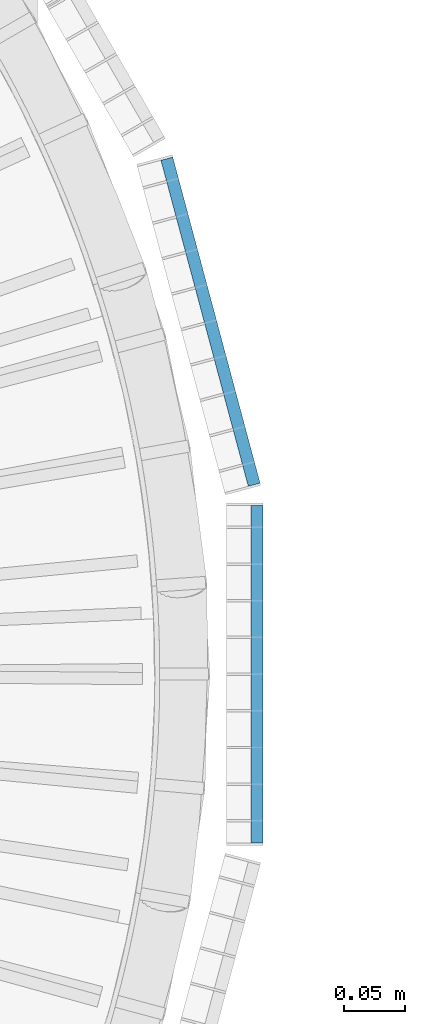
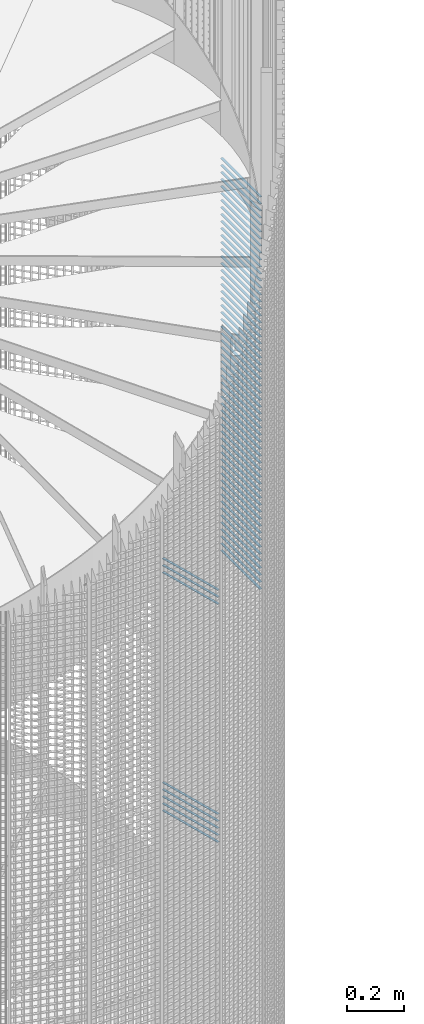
# One storey, part 290 of 1148: 65 beams, 2 elements without a shape of their own.
"""IFC2X3 building model written with IfcOpenShell, lengths in millimetres."""

from ifc_helpers import new_model, si_unit, frame, origin_with_axes, origin_2d_with_axis, place, context, subcontext, project, spatial, rectangle, extrude, material, type_object, element, aggregate, save


model = new_model("IFC2X3")

# Units and contexts
model_context = context("Model", 3, precision=1e-05, world=origin_with_axes())
body_context = subcontext(model_context, "Body", "Model", "MODEL_VIEW")
ifc_project = project(units=[si_unit("LENGTHUNIT", "METRE", prefix="MILLI"), si_unit("AREAUNIT", "SQUARE_METRE"), si_unit("VOLUMEUNIT", "CUBIC_METRE"), si_unit("MASSUNIT", "GRAM", prefix="KILO"), si_unit("TIMEUNIT", "SECOND"), si_unit("PLANEANGLEUNIT", "RADIAN"), si_unit("SOLIDANGLEUNIT", "STERADIAN"), si_unit("THERMODYNAMICTEMPERATUREUNIT", "DEGREE_CELSIUS"), si_unit("LUMINOUSINTENSITYUNIT", "LUMEN")], contexts=[model_context])

# Site, building, storey
site_placement = place(None, origin_with_axes())
site = spatial("IfcSite", under=ifc_project, at=site_placement, Name="Undefined", CompositionType="ELEMENT")
building_placement = place(site_placement, origin_with_axes())
building = spatial("IfcBuilding", under=site, at=building_placement, Name="Undefined", CompositionType="ELEMENT")
storey_placement = place(building_placement, origin_with_axes())
storey = spatial("IfcBuildingStorey", under=building, at=storey_placement, Name="Undefined", CompositionType="ELEMENT", Elevation=0.0)

# Assembly, beams
assembly_1_placement = place(storey_placement, origin_with_axes())
assembly_1 = element("IfcElementAssembly", 1, at=assembly_1_placement, inside=storey, Name="BORDURE", AssemblyPlace="NOTDEFINED", PredefinedType="NOTDEFINED")
ifc_material = material(Name="STEEL/S235JR")
beam_type = type_object("IfcBeamType", Name="PL2*10", PredefinedType="NOTDEFINED")
beam_1_placement = place(assembly_1_placement, frame((1111.25508286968, 154.895926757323, 4050.0), z_axis=(0.965925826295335, 0.258819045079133, 0.0), x_axis=(-0.258819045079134, 0.965925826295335, 0.0)))
beam_1 = element("IfcBeam", 2, at=beam_1_placement, type_object=beam_type, material=ifc_material, Name="ENTRETOISE", context=body_context, shape_type="SweptSolid", body=[
    extrude(rectangle(XDim=2.0, YDim=10.0, at=origin_2d_with_axis()), frame((275.999999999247, 9.09494701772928e-13, 1.53210777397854e-14), z_axis=(-1.0, 0.0, 0.0), x_axis=(0.0, -1.0, 0.0)), (0.0, 0.0, 1.0), 276.0),
])
beam_2_placement = place(assembly_1_placement, frame((1111.25508286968, 154.895926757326, 3150.0), z_axis=(0.965925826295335, 0.258819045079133, 0.0), x_axis=(-0.258819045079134, 0.965925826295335, 0.0)))
beam_2 = element("IfcBeam", 3, at=beam_2_placement, type_object=beam_type, material=ifc_material, Name="ENTRETOISE", context=body_context, shape_type="SweptSolid", body=[
    extrude(rectangle(XDim=2.0, YDim=10.0, at=origin_2d_with_axis()), frame((275.999999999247, 9.09494701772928e-13, 1.53210777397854e-14), z_axis=(-1.0, 0.0, 0.0), x_axis=(0.0, -1.0, 0.0)), (0.0, 0.0, 1.0), 276.0),
])
beam_3_placement = place(assembly_1_placement, frame((1111.25508286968, 154.895926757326, 3120.0), z_axis=(0.965925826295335, 0.258819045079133, 0.0), x_axis=(-0.258819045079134, 0.965925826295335, 0.0)))
beam_3 = element("IfcBeam", 4, at=beam_3_placement, type_object=beam_type, material=ifc_material, Name="ENTRETOISE", context=body_context, shape_type="SweptSolid", body=[
    extrude(rectangle(XDim=2.0, YDim=10.0, at=origin_2d_with_axis()), frame((275.999999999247, 9.09494701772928e-13, 1.53210777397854e-14), z_axis=(-1.0, 0.0, 0.0), x_axis=(0.0, -1.0, 0.0)), (0.0, 0.0, 1.0), 276.0),
])
beam_4_placement = place(assembly_1_placement, frame((1111.25508286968, 154.895926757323, 4080.0), z_axis=(0.965925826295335, 0.258819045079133, 0.0), x_axis=(-0.258819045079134, 0.965925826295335, 0.0)))
beam_4 = element("IfcBeam", 5, at=beam_4_placement, type_object=beam_type, material=ifc_material, Name="ENTRETOISE", context=body_context, shape_type="SweptSolid", body=[
    extrude(rectangle(XDim=2.0, YDim=10.0, at=origin_2d_with_axis()), frame((275.999999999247, 9.09494701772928e-13, 1.53210777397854e-14), z_axis=(-1.0, 0.0, 0.0), x_axis=(0.0, -1.0, 0.0)), (0.0, 0.0, 1.0), 276.0),
])
beam_5_placement = place(assembly_1_placement, frame((1111.25508286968, 154.895926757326, 3090.0), z_axis=(0.965925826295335, 0.258819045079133, 0.0), x_axis=(-0.258819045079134, 0.965925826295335, 0.0)))
beam_5 = element("IfcBeam", 6, at=beam_5_placement, type_object=beam_type, material=ifc_material, Name="ENTRETOISE", context=body_context, shape_type="SweptSolid", body=[
    extrude(rectangle(XDim=2.0, YDim=10.0, at=origin_2d_with_axis()), frame((275.999999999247, 9.09494701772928e-13, 1.53210777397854e-14), z_axis=(-1.0, 0.0, 0.0), x_axis=(0.0, -1.0, 0.0)), (0.0, 0.0, 1.0), 276.0),
])
beam_6_placement = place(assembly_1_placement, frame((1111.25508286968, 154.895926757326, 3060.0), z_axis=(0.965925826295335, 0.258819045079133, 0.0), x_axis=(-0.258819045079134, 0.965925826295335, 0.0)))
beam_6 = element("IfcBeam", 7, at=beam_6_placement, type_object=beam_type, material=ifc_material, Name="ENTRETOISE", context=body_context, shape_type="SweptSolid", body=[
    extrude(rectangle(XDim=2.0, YDim=10.0, at=origin_2d_with_axis()), frame((275.999999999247, 9.09494701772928e-13, 1.53210777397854e-14), z_axis=(-1.0, 0.0, 0.0), x_axis=(0.0, -1.0, 0.0)), (0.0, 0.0, 1.0), 276.0),
])
beam_7_placement = place(assembly_1_placement, frame((1111.25508286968, 154.895926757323, 4110.0), z_axis=(0.965925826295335, 0.258819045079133, 0.0), x_axis=(-0.258819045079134, 0.965925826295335, 0.0)))
beam_7 = element("IfcBeam", 8, at=beam_7_placement, type_object=beam_type, material=ifc_material, Name="ENTRETOISE", context=body_context, shape_type="SweptSolid", body=[
    extrude(rectangle(XDim=2.0, YDim=10.0, at=origin_2d_with_axis()), frame((275.999999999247, 9.09494701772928e-13, 1.53210777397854e-14), z_axis=(-1.0, 0.0, 0.0), x_axis=(0.0, -1.0, 0.0)), (0.0, 0.0, 1.0), 276.0),
])
beam_8_placement = place(assembly_1_placement, frame((1111.25508286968, 154.895926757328, 3030.0), z_axis=(0.965925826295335, 0.258819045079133, 0.0), x_axis=(-0.258819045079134, 0.965925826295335, 0.0)))
beam_8 = element("IfcBeam", 9, at=beam_8_placement, type_object=beam_type, material=ifc_material, Name="ENTRETOISE", context=body_context, shape_type="SweptSolid", body=[
    extrude(rectangle(XDim=2.0, YDim=10.0, at=origin_2d_with_axis()), frame((275.999999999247, 9.09494701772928e-13, 1.53210777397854e-14), z_axis=(-1.0, 0.0, 0.0), x_axis=(0.0, -1.0, 0.0)), (0.0, 0.0, 1.0), 276.0),
])
aggregate(assembly_1, [beam_1, beam_2, beam_3, beam_4, beam_5, beam_6, beam_7, beam_8])

assembly_2_placement = place(storey_placement, origin_with_axes())
assembly_2 = element("IfcElementAssembly", 10, at=assembly_2_placement, inside=storey, Name="BORDURE", AssemblyPlace="NOTDEFINED", PredefinedType="NOTDEFINED")
beam_9_placement = place(assembly_2_placement, frame((1113.47999999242, -137.996003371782, 5970.0), z_axis=(1.0, 0.0, 0.0), x_axis=(0.0, 1.0, 0.0)))
beam_9 = element("IfcBeam", 11, at=beam_9_placement, type_object=beam_type, material=ifc_material, Name="ENTRETOISE", context=body_context, shape_type="SweptSolid", body=[
    extrude(rectangle(XDim=2.0, YDim=10.0, at=origin_2d_with_axis()), frame((275.999999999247, 9.09494701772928e-13, 1.53210777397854e-14), z_axis=(-1.0, 0.0, 0.0), x_axis=(0.0, -1.0, 0.0)), (0.0, 0.0, 1.0), 276.0),
])
beam_10_placement = place(assembly_2_placement, frame((1113.47999999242, -137.996003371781, 5940.0), z_axis=(1.0, 0.0, 0.0), x_axis=(0.0, 1.0, 0.0)))
beam_10 = element("IfcBeam", 12, at=beam_10_placement, type_object=beam_type, material=ifc_material, Name="ENTRETOISE", context=body_context, shape_type="SweptSolid", body=[
    extrude(rectangle(XDim=2.0, YDim=10.0, at=origin_2d_with_axis()), frame((275.999999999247, 9.09494701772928e-13, 1.53210777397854e-14), z_axis=(-1.0, 0.0, 0.0), x_axis=(0.0, -1.0, 0.0)), (0.0, 0.0, 1.0), 276.0),
])
beam_11_placement = place(assembly_2_placement, frame((1113.47999999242, -137.996003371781, 5910.0), z_axis=(1.0, 0.0, 0.0), x_axis=(0.0, 1.0, 0.0)))
beam_11 = element("IfcBeam", 13, at=beam_11_placement, type_object=beam_type, material=ifc_material, Name="ENTRETOISE", context=body_context, shape_type="SweptSolid", body=[
    extrude(rectangle(XDim=2.0, YDim=10.0, at=origin_2d_with_axis()), frame((275.999999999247, 9.09494701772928e-13, 1.53210777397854e-14), z_axis=(-1.0, 0.0, 0.0), x_axis=(0.0, -1.0, 0.0)), (0.0, 0.0, 1.0), 276.0),
])
beam_12_placement = place(assembly_2_placement, frame((1113.47999999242, -137.996003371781, 5880.0), z_axis=(1.0, 0.0, 0.0), x_axis=(0.0, 1.0, 0.0)))
beam_12 = element("IfcBeam", 14, at=beam_12_placement, type_object=beam_type, material=ifc_material, Name="ENTRETOISE", context=body_context, shape_type="SweptSolid", body=[
    extrude(rectangle(XDim=2.0, YDim=10.0, at=origin_2d_with_axis()), frame((275.999999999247, 9.09494701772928e-13, 1.53210777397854e-14), z_axis=(-1.0, 0.0, 0.0), x_axis=(0.0, -1.0, 0.0)), (0.0, 0.0, 1.0), 276.0),
])
beam_13_placement = place(assembly_2_placement, frame((1113.47999999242, -137.996003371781, 5850.0), z_axis=(1.0, 0.0, 0.0), x_axis=(0.0, 1.0, 0.0)))
beam_13 = element("IfcBeam", 15, at=beam_13_placement, type_object=beam_type, material=ifc_material, Name="ENTRETOISE", context=body_context, shape_type="SweptSolid", body=[
    extrude(rectangle(XDim=2.0, YDim=10.0, at=origin_2d_with_axis()), frame((275.999999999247, 9.09494701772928e-13, 1.53210777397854e-14), z_axis=(-1.0, 0.0, 0.0), x_axis=(0.0, -1.0, 0.0)), (0.0, 0.0, 1.0), 276.0),
])
beam_14_placement = place(assembly_2_placement, frame((1113.47999999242, -137.996003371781, 5820.0), z_axis=(1.0, 0.0, 0.0), x_axis=(0.0, 1.0, 0.0)))
beam_14 = element("IfcBeam", 16, at=beam_14_placement, type_object=beam_type, material=ifc_material, Name="ENTRETOISE", context=body_context, shape_type="SweptSolid", body=[
    extrude(rectangle(XDim=2.0, YDim=10.0, at=origin_2d_with_axis()), frame((275.999999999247, 9.09494701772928e-13, 1.53210777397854e-14), z_axis=(-1.0, 0.0, 0.0), x_axis=(0.0, -1.0, 0.0)), (0.0, 0.0, 1.0), 276.0),
])
beam_15_placement = place(assembly_2_placement, frame((1113.47999999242, -137.996003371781, 5790.0), z_axis=(1.0, 0.0, 0.0), x_axis=(0.0, 1.0, 0.0)))
beam_15 = element("IfcBeam", 17, at=beam_15_placement, type_object=beam_type, material=ifc_material, Name="ENTRETOISE", context=body_context, shape_type="SweptSolid", body=[
    extrude(rectangle(XDim=2.0, YDim=10.0, at=origin_2d_with_axis()), frame((275.999999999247, 9.09494701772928e-13, 1.53210777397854e-14), z_axis=(-1.0, 0.0, 0.0), x_axis=(0.0, -1.0, 0.0)), (0.0, 0.0, 1.0), 276.0),
])
beam_16_placement = place(assembly_2_placement, frame((1113.47999999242, -137.996003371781, 5760.0), z_axis=(1.0, 0.0, 0.0), x_axis=(0.0, 1.0, 0.0)))
beam_16 = element("IfcBeam", 18, at=beam_16_placement, type_object=beam_type, material=ifc_material, Name="ENTRETOISE", context=body_context, shape_type="SweptSolid", body=[
    extrude(rectangle(XDim=2.0, YDim=10.0, at=origin_2d_with_axis()), frame((275.999999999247, 9.09494701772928e-13, 1.53210777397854e-14), z_axis=(-1.0, 0.0, 0.0), x_axis=(0.0, -1.0, 0.0)), (0.0, 0.0, 1.0), 276.0),
])
beam_17_placement = place(assembly_2_placement, frame((1113.47999999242, -137.996003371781, 5730.0), z_axis=(1.0, 0.0, 0.0), x_axis=(0.0, 1.0, 0.0)))
beam_17 = element("IfcBeam", 19, at=beam_17_placement, type_object=beam_type, material=ifc_material, Name="ENTRETOISE", context=body_context, shape_type="SweptSolid", body=[
    extrude(rectangle(XDim=2.0, YDim=10.0, at=origin_2d_with_axis()), frame((275.999999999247, 9.09494701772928e-13, 1.53210777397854e-14), z_axis=(-1.0, 0.0, 0.0), x_axis=(0.0, -1.0, 0.0)), (0.0, 0.0, 1.0), 276.0),
])
beam_18_placement = place(assembly_2_placement, frame((1113.47999999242, -137.996003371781, 5700.0), z_axis=(1.0, 0.0, 0.0), x_axis=(0.0, 1.0, 0.0)))
beam_18 = element("IfcBeam", 20, at=beam_18_placement, type_object=beam_type, material=ifc_material, Name="ENTRETOISE", context=body_context, shape_type="SweptSolid", body=[
    extrude(rectangle(XDim=2.0, YDim=10.0, at=origin_2d_with_axis()), frame((275.999999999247, 9.09494701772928e-13, 1.53210777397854e-14), z_axis=(-1.0, 0.0, 0.0), x_axis=(0.0, -1.0, 0.0)), (0.0, 0.0, 1.0), 276.0),
])
beam_19_placement = place(assembly_2_placement, frame((1113.47999999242, -137.996003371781, 5670.0), z_axis=(1.0, 0.0, 0.0), x_axis=(0.0, 1.0, 0.0)))
beam_19 = element("IfcBeam", 21, at=beam_19_placement, type_object=beam_type, material=ifc_material, Name="ENTRETOISE", context=body_context, shape_type="SweptSolid", body=[
    extrude(rectangle(XDim=2.0, YDim=10.0, at=origin_2d_with_axis()), frame((275.999999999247, 9.09494701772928e-13, 1.53210777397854e-14), z_axis=(-1.0, 0.0, 0.0), x_axis=(0.0, -1.0, 0.0)), (0.0, 0.0, 1.0), 276.0),
])
beam_20_placement = place(assembly_2_placement, frame((1113.47999999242, -137.99600337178, 5640.0), z_axis=(1.0, 0.0, 0.0), x_axis=(0.0, 1.0, 0.0)))
beam_20 = element("IfcBeam", 22, at=beam_20_placement, type_object=beam_type, material=ifc_material, Name="ENTRETOISE", context=body_context, shape_type="SweptSolid", body=[
    extrude(rectangle(XDim=2.0, YDim=10.0, at=origin_2d_with_axis()), frame((275.999999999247, 9.09494701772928e-13, 1.53210777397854e-14), z_axis=(-1.0, 0.0, 0.0), x_axis=(0.0, -1.0, 0.0)), (0.0, 0.0, 1.0), 276.0),
])
beam_21_placement = place(assembly_2_placement, frame((1113.47999999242, -137.99600337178, 5610.0), z_axis=(1.0, 0.0, 0.0), x_axis=(0.0, 1.0, 0.0)))
beam_21 = element("IfcBeam", 23, at=beam_21_placement, type_object=beam_type, material=ifc_material, Name="ENTRETOISE", context=body_context, shape_type="SweptSolid", body=[
    extrude(rectangle(XDim=2.0, YDim=10.0, at=origin_2d_with_axis()), frame((275.999999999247, 9.09494701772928e-13, 1.53210777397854e-14), z_axis=(-1.0, 0.0, 0.0), x_axis=(0.0, -1.0, 0.0)), (0.0, 0.0, 1.0), 276.0),
])
beam_22_placement = place(assembly_2_placement, frame((1113.47999999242, -137.99600337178, 5580.0), z_axis=(1.0, 0.0, 0.0), x_axis=(0.0, 1.0, 0.0)))
beam_22 = element("IfcBeam", 24, at=beam_22_placement, type_object=beam_type, material=ifc_material, Name="ENTRETOISE", context=body_context, shape_type="SweptSolid", body=[
    extrude(rectangle(XDim=2.0, YDim=10.0, at=origin_2d_with_axis()), frame((275.999999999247, 9.09494701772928e-13, 1.53210777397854e-14), z_axis=(-1.0, 0.0, 0.0), x_axis=(0.0, -1.0, 0.0)), (0.0, 0.0, 1.0), 276.0),
])
beam_23_placement = place(assembly_2_placement, frame((1113.47999999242, -137.99600337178, 5550.0), z_axis=(1.0, 0.0, 0.0), x_axis=(0.0, 1.0, 0.0)))
beam_23 = element("IfcBeam", 25, at=beam_23_placement, type_object=beam_type, material=ifc_material, Name="ENTRETOISE", context=body_context, shape_type="SweptSolid", body=[
    extrude(rectangle(XDim=2.0, YDim=10.0, at=origin_2d_with_axis()), frame((275.999999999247, 9.09494701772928e-13, 1.53210777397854e-14), z_axis=(-1.0, 0.0, 0.0), x_axis=(0.0, -1.0, 0.0)), (0.0, 0.0, 1.0), 276.0),
])
beam_24_placement = place(assembly_2_placement, frame((1113.47999999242, -137.99600337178, 5520.0), z_axis=(1.0, 0.0, 0.0), x_axis=(0.0, 1.0, 0.0)))
beam_24 = element("IfcBeam", 26, at=beam_24_placement, type_object=beam_type, material=ifc_material, Name="ENTRETOISE", context=body_context, shape_type="SweptSolid", body=[
    extrude(rectangle(XDim=2.0, YDim=10.0, at=origin_2d_with_axis()), frame((275.999999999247, 9.09494701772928e-13, 1.53210777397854e-14), z_axis=(-1.0, 0.0, 0.0), x_axis=(0.0, -1.0, 0.0)), (0.0, 0.0, 1.0), 276.0),
])
beam_25_placement = place(assembly_2_placement, frame((1113.47999999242, -137.99600337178, 5490.0), z_axis=(1.0, 0.0, 0.0), x_axis=(0.0, 1.0, 0.0)))
beam_25 = element("IfcBeam", 27, at=beam_25_placement, type_object=beam_type, material=ifc_material, Name="ENTRETOISE", context=body_context, shape_type="SweptSolid", body=[
    extrude(rectangle(XDim=2.0, YDim=10.0, at=origin_2d_with_axis()), frame((275.999999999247, 9.09494701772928e-13, 1.53210777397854e-14), z_axis=(-1.0, 0.0, 0.0), x_axis=(0.0, -1.0, 0.0)), (0.0, 0.0, 1.0), 276.0),
])
beam_26_placement = place(assembly_2_placement, frame((1113.47999999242, -137.99600337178, 5460.0), z_axis=(1.0, 0.0, 0.0), x_axis=(0.0, 1.0, 0.0)))
beam_26 = element("IfcBeam", 28, at=beam_26_placement, type_object=beam_type, material=ifc_material, Name="ENTRETOISE", context=body_context, shape_type="SweptSolid", body=[
    extrude(rectangle(XDim=2.0, YDim=10.0, at=origin_2d_with_axis()), frame((275.999999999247, 9.09494701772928e-13, 1.53210777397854e-14), z_axis=(-1.0, 0.0, 0.0), x_axis=(0.0, -1.0, 0.0)), (0.0, 0.0, 1.0), 276.0),
])
beam_27_placement = place(assembly_2_placement, frame((1113.47999999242, -137.99600337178, 5430.0), z_axis=(1.0, 0.0, 0.0), x_axis=(0.0, 1.0, 0.0)))
beam_27 = element("IfcBeam", 29, at=beam_27_placement, type_object=beam_type, material=ifc_material, Name="ENTRETOISE", context=body_context, shape_type="SweptSolid", body=[
    extrude(rectangle(XDim=2.0, YDim=10.0, at=origin_2d_with_axis()), frame((275.999999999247, 9.09494701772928e-13, 1.53210777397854e-14), z_axis=(-1.0, 0.0, 0.0), x_axis=(0.0, -1.0, 0.0)), (0.0, 0.0, 1.0), 276.0),
])
beam_28_placement = place(assembly_2_placement, frame((1113.47999999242, -137.996003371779, 5400.0), z_axis=(1.0, 0.0, 0.0), x_axis=(0.0, 1.0, 0.0)))
beam_28 = element("IfcBeam", 30, at=beam_28_placement, type_object=beam_type, material=ifc_material, Name="ENTRETOISE", context=body_context, shape_type="SweptSolid", body=[
    extrude(rectangle(XDim=2.0, YDim=10.0, at=origin_2d_with_axis()), frame((275.999999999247, 9.09494701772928e-13, 1.53210777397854e-14), z_axis=(-1.0, 0.0, 0.0), x_axis=(0.0, -1.0, 0.0)), (0.0, 0.0, 1.0), 276.0),
])
beam_29_placement = place(assembly_2_placement, frame((1113.47999999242, -137.996003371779, 5370.0), z_axis=(1.0, 0.0, 0.0), x_axis=(0.0, 1.0, 0.0)))
beam_29 = element("IfcBeam", 31, at=beam_29_placement, type_object=beam_type, material=ifc_material, Name="ENTRETOISE", context=body_context, shape_type="SweptSolid", body=[
    extrude(rectangle(XDim=2.0, YDim=10.0, at=origin_2d_with_axis()), frame((275.999999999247, 9.09494701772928e-13, 1.53210777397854e-14), z_axis=(-1.0, 0.0, 0.0), x_axis=(0.0, -1.0, 0.0)), (0.0, 0.0, 1.0), 276.0),
])
beam_30_placement = place(assembly_2_placement, frame((1113.47999999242, -137.996003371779, 5340.0), z_axis=(1.0, 0.0, 0.0), x_axis=(0.0, 1.0, 0.0)))
beam_30 = element("IfcBeam", 32, at=beam_30_placement, type_object=beam_type, material=ifc_material, Name="ENTRETOISE", context=body_context, shape_type="SweptSolid", body=[
    extrude(rectangle(XDim=2.0, YDim=10.0, at=origin_2d_with_axis()), frame((275.999999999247, 9.09494701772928e-13, 1.53210777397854e-14), z_axis=(-1.0, 0.0, 0.0), x_axis=(0.0, -1.0, 0.0)), (0.0, 0.0, 1.0), 276.0),
])
beam_31_placement = place(assembly_2_placement, frame((1113.47999999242, -137.996003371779, 5310.0), z_axis=(1.0, 0.0, 0.0), x_axis=(0.0, 1.0, 0.0)))
beam_31 = element("IfcBeam", 33, at=beam_31_placement, type_object=beam_type, material=ifc_material, Name="ENTRETOISE", context=body_context, shape_type="SweptSolid", body=[
    extrude(rectangle(XDim=2.0, YDim=10.0, at=origin_2d_with_axis()), frame((275.999999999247, 9.09494701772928e-13, 1.53210777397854e-14), z_axis=(-1.0, 0.0, 0.0), x_axis=(0.0, -1.0, 0.0)), (0.0, 0.0, 1.0), 276.0),
])
beam_32_placement = place(assembly_2_placement, frame((1113.47999999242, -137.996003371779, 5280.0), z_axis=(1.0, 0.0, 0.0), x_axis=(0.0, 1.0, 0.0)))
beam_32 = element("IfcBeam", 34, at=beam_32_placement, type_object=beam_type, material=ifc_material, Name="ENTRETOISE", context=body_context, shape_type="SweptSolid", body=[
    extrude(rectangle(XDim=2.0, YDim=10.0, at=origin_2d_with_axis()), frame((275.999999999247, 9.09494701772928e-13, 1.53210777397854e-14), z_axis=(-1.0, 0.0, 0.0), x_axis=(0.0, -1.0, 0.0)), (0.0, 0.0, 1.0), 276.0),
])
beam_33_placement = place(assembly_2_placement, frame((1113.47999999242, -137.996003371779, 5250.0), z_axis=(1.0, 0.0, 0.0), x_axis=(0.0, 1.0, 0.0)))
beam_33 = element("IfcBeam", 35, at=beam_33_placement, type_object=beam_type, material=ifc_material, Name="ENTRETOISE", context=body_context, shape_type="SweptSolid", body=[
    extrude(rectangle(XDim=2.0, YDim=10.0, at=origin_2d_with_axis()), frame((275.999999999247, 9.09494701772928e-13, 1.53210777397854e-14), z_axis=(-1.0, 0.0, 0.0), x_axis=(0.0, -1.0, 0.0)), (0.0, 0.0, 1.0), 276.0),
])
beam_34_placement = place(assembly_2_placement, frame((1113.47999999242, -137.996003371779, 5220.0), z_axis=(1.0, 0.0, 0.0), x_axis=(0.0, 1.0, 0.0)))
beam_34 = element("IfcBeam", 36, at=beam_34_placement, type_object=beam_type, material=ifc_material, Name="ENTRETOISE", context=body_context, shape_type="SweptSolid", body=[
    extrude(rectangle(XDim=2.0, YDim=10.0, at=origin_2d_with_axis()), frame((275.999999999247, 9.09494701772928e-13, 1.53210777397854e-14), z_axis=(-1.0, 0.0, 0.0), x_axis=(0.0, -1.0, 0.0)), (0.0, 0.0, 1.0), 276.0),
])
beam_35_placement = place(assembly_2_placement, frame((1113.47999999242, -137.996003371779, 5190.0), z_axis=(1.0, 0.0, 0.0), x_axis=(0.0, 1.0, 0.0)))
beam_35 = element("IfcBeam", 37, at=beam_35_placement, type_object=beam_type, material=ifc_material, Name="ENTRETOISE", context=body_context, shape_type="SweptSolid", body=[
    extrude(rectangle(XDim=2.0, YDim=10.0, at=origin_2d_with_axis()), frame((275.999999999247, 9.09494701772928e-13, 1.53210777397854e-14), z_axis=(-1.0, 0.0, 0.0), x_axis=(0.0, -1.0, 0.0)), (0.0, 0.0, 1.0), 276.0),
])
beam_36_placement = place(assembly_2_placement, frame((1113.47999999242, -137.996003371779, 5160.0), z_axis=(1.0, 0.0, 0.0), x_axis=(0.0, 1.0, 0.0)))
beam_36 = element("IfcBeam", 38, at=beam_36_placement, type_object=beam_type, material=ifc_material, Name="ENTRETOISE", context=body_context, shape_type="SweptSolid", body=[
    extrude(rectangle(XDim=2.0, YDim=10.0, at=origin_2d_with_axis()), frame((275.999999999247, 9.09494701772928e-13, 1.53210777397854e-14), z_axis=(-1.0, 0.0, 0.0), x_axis=(0.0, -1.0, 0.0)), (0.0, 0.0, 1.0), 276.0),
])
beam_37_placement = place(assembly_2_placement, frame((1113.47999999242, -137.996003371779, 5130.0), z_axis=(1.0, 0.0, 0.0), x_axis=(0.0, 1.0, 0.0)))
beam_37 = element("IfcBeam", 39, at=beam_37_placement, type_object=beam_type, material=ifc_material, Name="ENTRETOISE", context=body_context, shape_type="SweptSolid", body=[
    extrude(rectangle(XDim=2.0, YDim=10.0, at=origin_2d_with_axis()), frame((275.999999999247, 9.09494701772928e-13, 1.53210777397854e-14), z_axis=(-1.0, 0.0, 0.0), x_axis=(0.0, -1.0, 0.0)), (0.0, 0.0, 1.0), 276.0),
])
beam_38_placement = place(assembly_2_placement, frame((1113.47999999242, -137.996003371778, 5100.0), z_axis=(1.0, 0.0, 0.0), x_axis=(0.0, 1.0, 0.0)))
beam_38 = element("IfcBeam", 40, at=beam_38_placement, type_object=beam_type, material=ifc_material, Name="ENTRETOISE", context=body_context, shape_type="SweptSolid", body=[
    extrude(rectangle(XDim=2.0, YDim=10.0, at=origin_2d_with_axis()), frame((275.999999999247, 9.09494701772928e-13, 1.53210777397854e-14), z_axis=(-1.0, 0.0, 0.0), x_axis=(0.0, -1.0, 0.0)), (0.0, 0.0, 1.0), 276.0),
])
beam_39_placement = place(assembly_2_placement, frame((1113.47999999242, -137.996003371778, 5070.0), z_axis=(1.0, 0.0, 0.0), x_axis=(0.0, 1.0, 0.0)))
beam_39 = element("IfcBeam", 41, at=beam_39_placement, type_object=beam_type, material=ifc_material, Name="ENTRETOISE", context=body_context, shape_type="SweptSolid", body=[
    extrude(rectangle(XDim=2.0, YDim=10.0, at=origin_2d_with_axis()), frame((275.999999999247, 9.09494701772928e-13, 1.53210777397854e-14), z_axis=(-1.0, 0.0, 0.0), x_axis=(0.0, -1.0, 0.0)), (0.0, 0.0, 1.0), 276.0),
])
beam_40_placement = place(assembly_2_placement, frame((1113.47999999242, -137.996003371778, 5040.0), z_axis=(1.0, 0.0, 0.0), x_axis=(0.0, 1.0, 0.0)))
beam_40 = element("IfcBeam", 42, at=beam_40_placement, type_object=beam_type, material=ifc_material, Name="ENTRETOISE", context=body_context, shape_type="SweptSolid", body=[
    extrude(rectangle(XDim=2.0, YDim=10.0, at=origin_2d_with_axis()), frame((275.999999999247, 9.09494701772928e-13, 1.53210777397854e-14), z_axis=(-1.0, 0.0, 0.0), x_axis=(0.0, -1.0, 0.0)), (0.0, 0.0, 1.0), 276.0),
])
beam_41_placement = place(assembly_2_placement, frame((1113.47999999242, -137.996003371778, 5010.0), z_axis=(1.0, 0.0, 0.0), x_axis=(0.0, 1.0, 0.0)))
beam_41 = element("IfcBeam", 43, at=beam_41_placement, type_object=beam_type, material=ifc_material, Name="ENTRETOISE", context=body_context, shape_type="SweptSolid", body=[
    extrude(rectangle(XDim=2.0, YDim=10.0, at=origin_2d_with_axis()), frame((275.999999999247, 9.09494701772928e-13, 1.53210777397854e-14), z_axis=(-1.0, 0.0, 0.0), x_axis=(0.0, -1.0, 0.0)), (0.0, 0.0, 1.0), 276.0),
])
beam_42_placement = place(assembly_2_placement, frame((1113.47999999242, -137.996003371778, 4980.0), z_axis=(1.0, 0.0, 0.0), x_axis=(0.0, 1.0, 0.0)))
beam_42 = element("IfcBeam", 44, at=beam_42_placement, type_object=beam_type, material=ifc_material, Name="ENTRETOISE", context=body_context, shape_type="SweptSolid", body=[
    extrude(rectangle(XDim=2.0, YDim=10.0, at=origin_2d_with_axis()), frame((275.999999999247, 9.09494701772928e-13, 1.53210777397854e-14), z_axis=(-1.0, 0.0, 0.0), x_axis=(0.0, -1.0, 0.0)), (0.0, 0.0, 1.0), 276.0),
])
beam_43_placement = place(assembly_2_placement, frame((1113.47999999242, -137.996003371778, 4950.0), z_axis=(1.0, 0.0, 0.0), x_axis=(0.0, 1.0, 0.0)))
beam_43 = element("IfcBeam", 45, at=beam_43_placement, type_object=beam_type, material=ifc_material, Name="ENTRETOISE", context=body_context, shape_type="SweptSolid", body=[
    extrude(rectangle(XDim=2.0, YDim=10.0, at=origin_2d_with_axis()), frame((275.999999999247, 9.09494701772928e-13, 1.53210777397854e-14), z_axis=(-1.0, 0.0, 0.0), x_axis=(0.0, -1.0, 0.0)), (0.0, 0.0, 1.0), 276.0),
])
beam_44_placement = place(assembly_2_placement, frame((1113.47999999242, -137.996003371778, 4920.0), z_axis=(1.0, 0.0, 0.0), x_axis=(0.0, 1.0, 0.0)))
beam_44 = element("IfcBeam", 46, at=beam_44_placement, type_object=beam_type, material=ifc_material, Name="ENTRETOISE", context=body_context, shape_type="SweptSolid", body=[
    extrude(rectangle(XDim=2.0, YDim=10.0, at=origin_2d_with_axis()), frame((275.999999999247, 9.09494701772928e-13, 1.53210777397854e-14), z_axis=(-1.0, 0.0, 0.0), x_axis=(0.0, -1.0, 0.0)), (0.0, 0.0, 1.0), 276.0),
])
beam_45_placement = place(assembly_2_placement, frame((1113.47999999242, -137.996003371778, 4890.0), z_axis=(1.0, 0.0, 0.0), x_axis=(0.0, 1.0, 0.0)))
beam_45 = element("IfcBeam", 47, at=beam_45_placement, type_object=beam_type, material=ifc_material, Name="ENTRETOISE", context=body_context, shape_type="SweptSolid", body=[
    extrude(rectangle(XDim=2.0, YDim=10.0, at=origin_2d_with_axis()), frame((275.999999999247, 9.09494701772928e-13, 1.53210777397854e-14), z_axis=(-1.0, 0.0, 0.0), x_axis=(0.0, -1.0, 0.0)), (0.0, 0.0, 1.0), 276.0),
])
beam_46_placement = place(assembly_2_placement, frame((1113.47999999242, -137.996003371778, 4860.0), z_axis=(1.0, 0.0, 0.0), x_axis=(0.0, 1.0, 0.0)))
beam_46 = element("IfcBeam", 48, at=beam_46_placement, type_object=beam_type, material=ifc_material, Name="ENTRETOISE", context=body_context, shape_type="SweptSolid", body=[
    extrude(rectangle(XDim=2.0, YDim=10.0, at=origin_2d_with_axis()), frame((275.999999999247, 9.09494701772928e-13, 1.53210777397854e-14), z_axis=(-1.0, 0.0, 0.0), x_axis=(0.0, -1.0, 0.0)), (0.0, 0.0, 1.0), 276.0),
])
beam_47_placement = place(assembly_2_placement, frame((1113.47999999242, -137.996003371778, 4830.0), z_axis=(1.0, 0.0, 0.0), x_axis=(0.0, 1.0, 0.0)))
beam_47 = element("IfcBeam", 49, at=beam_47_placement, type_object=beam_type, material=ifc_material, Name="ENTRETOISE", context=body_context, shape_type="SweptSolid", body=[
    extrude(rectangle(XDim=2.0, YDim=10.0, at=origin_2d_with_axis()), frame((275.999999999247, 9.09494701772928e-13, 1.53210777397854e-14), z_axis=(-1.0, 0.0, 0.0), x_axis=(0.0, -1.0, 0.0)), (0.0, 0.0, 1.0), 276.0),
])
beam_48_placement = place(assembly_2_placement, frame((1113.47999999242, -137.996003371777, 4800.0), z_axis=(1.0, 0.0, 0.0), x_axis=(0.0, 1.0, 0.0)))
beam_48 = element("IfcBeam", 50, at=beam_48_placement, type_object=beam_type, material=ifc_material, Name="ENTRETOISE", context=body_context, shape_type="SweptSolid", body=[
    extrude(rectangle(XDim=2.0, YDim=10.0, at=origin_2d_with_axis()), frame((275.999999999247, 9.09494701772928e-13, 1.53210777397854e-14), z_axis=(-1.0, 0.0, 0.0), x_axis=(0.0, -1.0, 0.0)), (0.0, 0.0, 1.0), 276.0),
])
beam_49_placement = place(assembly_2_placement, frame((1113.47999999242, -137.996003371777, 4770.0), z_axis=(1.0, 0.0, 0.0), x_axis=(0.0, 1.0, 0.0)))
beam_49 = element("IfcBeam", 51, at=beam_49_placement, type_object=beam_type, material=ifc_material, Name="ENTRETOISE", context=body_context, shape_type="SweptSolid", body=[
    extrude(rectangle(XDim=2.0, YDim=10.0, at=origin_2d_with_axis()), frame((275.999999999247, 9.09494701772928e-13, 1.53210777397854e-14), z_axis=(-1.0, 0.0, 0.0), x_axis=(0.0, -1.0, 0.0)), (0.0, 0.0, 1.0), 276.0),
])
beam_50_placement = place(assembly_2_placement, frame((1113.47999999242, -137.996003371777, 4740.0), z_axis=(1.0, 0.0, 0.0), x_axis=(0.0, 1.0, 0.0)))
beam_50 = element("IfcBeam", 52, at=beam_50_placement, type_object=beam_type, material=ifc_material, Name="ENTRETOISE", context=body_context, shape_type="SweptSolid", body=[
    extrude(rectangle(XDim=2.0, YDim=10.0, at=origin_2d_with_axis()), frame((275.999999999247, 9.09494701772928e-13, 1.53210777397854e-14), z_axis=(-1.0, 0.0, 0.0), x_axis=(0.0, -1.0, 0.0)), (0.0, 0.0, 1.0), 276.0),
])
beam_51_placement = place(assembly_2_placement, frame((1113.47999999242, -137.996003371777, 4710.0), z_axis=(1.0, 0.0, 0.0), x_axis=(0.0, 1.0, 0.0)))
beam_51 = element("IfcBeam", 53, at=beam_51_placement, type_object=beam_type, material=ifc_material, Name="ENTRETOISE", context=body_context, shape_type="SweptSolid", body=[
    extrude(rectangle(XDim=2.0, YDim=10.0, at=origin_2d_with_axis()), frame((275.999999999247, 9.09494701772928e-13, 1.53210777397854e-14), z_axis=(-1.0, 0.0, 0.0), x_axis=(0.0, -1.0, 0.0)), (0.0, 0.0, 1.0), 276.0),
])
beam_52_placement = place(assembly_2_placement, frame((1113.47999999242, -137.996003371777, 4680.0), z_axis=(1.0, 0.0, 0.0), x_axis=(0.0, 1.0, 0.0)))
beam_52 = element("IfcBeam", 54, at=beam_52_placement, type_object=beam_type, material=ifc_material, Name="ENTRETOISE", context=body_context, shape_type="SweptSolid", body=[
    extrude(rectangle(XDim=2.0, YDim=10.0, at=origin_2d_with_axis()), frame((275.999999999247, 9.09494701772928e-13, 1.53210777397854e-14), z_axis=(-1.0, 0.0, 0.0), x_axis=(0.0, -1.0, 0.0)), (0.0, 0.0, 1.0), 276.0),
])
beam_53_placement = place(assembly_2_placement, frame((1113.47999999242, -137.996003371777, 4650.0), z_axis=(1.0, 0.0, 0.0), x_axis=(0.0, 1.0, 0.0)))
beam_53 = element("IfcBeam", 55, at=beam_53_placement, type_object=beam_type, material=ifc_material, Name="ENTRETOISE", context=body_context, shape_type="SweptSolid", body=[
    extrude(rectangle(XDim=2.0, YDim=10.0, at=origin_2d_with_axis()), frame((275.999999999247, 9.09494701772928e-13, 1.53210777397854e-14), z_axis=(-1.0, 0.0, 0.0), x_axis=(0.0, -1.0, 0.0)), (0.0, 0.0, 1.0), 276.0),
])
beam_54_placement = place(assembly_2_placement, frame((1113.47999999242, -137.996003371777, 4620.0), z_axis=(1.0, 0.0, 0.0), x_axis=(0.0, 1.0, 0.0)))
beam_54 = element("IfcBeam", 56, at=beam_54_placement, type_object=beam_type, material=ifc_material, Name="ENTRETOISE", context=body_context, shape_type="SweptSolid", body=[
    extrude(rectangle(XDim=2.0, YDim=10.0, at=origin_2d_with_axis()), frame((275.999999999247, 9.09494701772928e-13, 1.53210777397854e-14), z_axis=(-1.0, 0.0, 0.0), x_axis=(0.0, -1.0, 0.0)), (0.0, 0.0, 1.0), 276.0),
])
beam_55_placement = place(assembly_2_placement, frame((1113.47999999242, -137.996003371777, 4590.0), z_axis=(1.0, 0.0, 0.0), x_axis=(0.0, 1.0, 0.0)))
beam_55 = element("IfcBeam", 57, at=beam_55_placement, type_object=beam_type, material=ifc_material, Name="ENTRETOISE", context=body_context, shape_type="SweptSolid", body=[
    extrude(rectangle(XDim=2.0, YDim=10.0, at=origin_2d_with_axis()), frame((275.999999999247, 9.09494701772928e-13, 1.53210777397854e-14), z_axis=(-1.0, 0.0, 0.0), x_axis=(0.0, -1.0, 0.0)), (0.0, 0.0, 1.0), 276.0),
])
beam_56_placement = place(assembly_2_placement, frame((1113.47999999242, -137.996003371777, 4560.0), z_axis=(1.0, 0.0, 0.0), x_axis=(0.0, 1.0, 0.0)))
beam_56 = element("IfcBeam", 58, at=beam_56_placement, type_object=beam_type, material=ifc_material, Name="ENTRETOISE", context=body_context, shape_type="SweptSolid", body=[
    extrude(rectangle(XDim=2.0, YDim=10.0, at=origin_2d_with_axis()), frame((275.999999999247, 9.09494701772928e-13, 1.53210777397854e-14), z_axis=(-1.0, 0.0, 0.0), x_axis=(0.0, -1.0, 0.0)), (0.0, 0.0, 1.0), 276.0),
])
beam_57_placement = place(assembly_2_placement, frame((1113.47999999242, -137.996003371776, 4530.0), z_axis=(1.0, 0.0, 0.0), x_axis=(0.0, 1.0, 0.0)))
beam_57 = element("IfcBeam", 59, at=beam_57_placement, type_object=beam_type, material=ifc_material, Name="ENTRETOISE", context=body_context, shape_type="SweptSolid", body=[
    extrude(rectangle(XDim=2.0, YDim=10.0, at=origin_2d_with_axis()), frame((275.999999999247, 9.09494701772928e-13, 1.53210777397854e-14), z_axis=(-1.0, 0.0, 0.0), x_axis=(0.0, -1.0, 0.0)), (0.0, 0.0, 1.0), 276.0),
])
beam_58_placement = place(assembly_2_placement, frame((1113.47999999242, -137.996003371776, 4500.0), z_axis=(1.0, 0.0, 0.0), x_axis=(0.0, 1.0, 0.0)))
beam_58 = element("IfcBeam", 60, at=beam_58_placement, type_object=beam_type, material=ifc_material, Name="ENTRETOISE", context=body_context, shape_type="SweptSolid", body=[
    extrude(rectangle(XDim=2.0, YDim=10.0, at=origin_2d_with_axis()), frame((275.999999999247, 9.09494701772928e-13, 1.53210777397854e-14), z_axis=(-1.0, 0.0, 0.0), x_axis=(0.0, -1.0, 0.0)), (0.0, 0.0, 1.0), 276.0),
])
beam_59_placement = place(assembly_2_placement, frame((1113.47999999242, -137.996003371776, 4470.0), z_axis=(1.0, 0.0, 0.0), x_axis=(0.0, 1.0, 0.0)))
beam_59 = element("IfcBeam", 61, at=beam_59_placement, type_object=beam_type, material=ifc_material, Name="ENTRETOISE", context=body_context, shape_type="SweptSolid", body=[
    extrude(rectangle(XDim=2.0, YDim=10.0, at=origin_2d_with_axis()), frame((275.999999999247, 9.09494701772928e-13, 1.53210777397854e-14), z_axis=(-1.0, 0.0, 0.0), x_axis=(0.0, -1.0, 0.0)), (0.0, 0.0, 1.0), 276.0),
])
beam_60_placement = place(assembly_2_placement, frame((1113.47999999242, -137.996003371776, 4440.0), z_axis=(1.0, 0.0, 0.0), x_axis=(0.0, 1.0, 0.0)))
beam_60 = element("IfcBeam", 62, at=beam_60_placement, type_object=beam_type, material=ifc_material, Name="ENTRETOISE", context=body_context, shape_type="SweptSolid", body=[
    extrude(rectangle(XDim=2.0, YDim=10.0, at=origin_2d_with_axis()), frame((275.999999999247, 9.09494701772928e-13, 1.53210777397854e-14), z_axis=(-1.0, 0.0, 0.0), x_axis=(0.0, -1.0, 0.0)), (0.0, 0.0, 1.0), 276.0),
])
beam_61_placement = place(assembly_2_placement, frame((1113.47999999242, -137.996003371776, 4410.0), z_axis=(1.0, 0.0, 0.0), x_axis=(0.0, 1.0, 0.0)))
beam_61 = element("IfcBeam", 63, at=beam_61_placement, type_object=beam_type, material=ifc_material, Name="ENTRETOISE", context=body_context, shape_type="SweptSolid", body=[
    extrude(rectangle(XDim=2.0, YDim=10.0, at=origin_2d_with_axis()), frame((275.999999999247, 9.09494701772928e-13, 1.53210777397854e-14), z_axis=(-1.0, 0.0, 0.0), x_axis=(0.0, -1.0, 0.0)), (0.0, 0.0, 1.0), 276.0),
])
beam_62_placement = place(assembly_2_placement, frame((1113.47999999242, -137.996003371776, 4380.0), z_axis=(1.0, 0.0, 0.0), x_axis=(0.0, 1.0, 0.0)))
beam_62 = element("IfcBeam", 64, at=beam_62_placement, type_object=beam_type, material=ifc_material, Name="ENTRETOISE", context=body_context, shape_type="SweptSolid", body=[
    extrude(rectangle(XDim=2.0, YDim=10.0, at=origin_2d_with_axis()), frame((275.999999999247, 9.09494701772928e-13, 1.53210777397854e-14), z_axis=(-1.0, 0.0, 0.0), x_axis=(0.0, -1.0, 0.0)), (0.0, 0.0, 1.0), 276.0),
])
beam_63_placement = place(assembly_2_placement, frame((1113.47999999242, -137.996003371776, 4350.0), z_axis=(1.0, 0.0, 0.0), x_axis=(0.0, 1.0, 0.0)))
beam_63 = element("IfcBeam", 65, at=beam_63_placement, type_object=beam_type, material=ifc_material, Name="ENTRETOISE", context=body_context, shape_type="SweptSolid", body=[
    extrude(rectangle(XDim=2.0, YDim=10.0, at=origin_2d_with_axis()), frame((275.999999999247, 9.09494701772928e-13, 1.53210777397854e-14), z_axis=(-1.0, 0.0, 0.0), x_axis=(0.0, -1.0, 0.0)), (0.0, 0.0, 1.0), 276.0),
])
beam_64_placement = place(assembly_2_placement, frame((1113.47999999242, -137.996003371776, 4320.0), z_axis=(1.0, 0.0, 0.0), x_axis=(0.0, 1.0, 0.0)))
beam_64 = element("IfcBeam", 66, at=beam_64_placement, type_object=beam_type, material=ifc_material, Name="ENTRETOISE", context=body_context, shape_type="SweptSolid", body=[
    extrude(rectangle(XDim=2.0, YDim=10.0, at=origin_2d_with_axis()), frame((275.999999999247, 9.09494701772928e-13, 1.53210777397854e-14), z_axis=(-1.0, 0.0, 0.0), x_axis=(0.0, -1.0, 0.0)), (0.0, 0.0, 1.0), 276.0),
])
beam_65_placement = place(assembly_2_placement, frame((1113.47999999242, -137.996003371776, 4290.0), z_axis=(1.0, 0.0, 0.0), x_axis=(0.0, 1.0, 0.0)))
beam_65 = element("IfcBeam", 67, at=beam_65_placement, type_object=beam_type, material=ifc_material, Name="ENTRETOISE", context=body_context, shape_type="SweptSolid", body=[
    extrude(rectangle(XDim=2.0, YDim=10.0, at=origin_2d_with_axis()), frame((275.999999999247, 9.09494701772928e-13, 1.53210777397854e-14), z_axis=(-1.0, 0.0, 0.0), x_axis=(0.0, -1.0, 0.0)), (0.0, 0.0, 1.0), 276.0),
])
aggregate(assembly_2, [beam_9, beam_10, beam_11, beam_12, beam_13, beam_14, beam_15, beam_16, beam_17, beam_18, beam_19, beam_20, beam_21, beam_22, beam_23, beam_24, beam_25, beam_26, beam_27, beam_28, beam_29, beam_30, beam_31, beam_32, beam_33, beam_34, beam_35, beam_36, beam_37, beam_38, beam_39, beam_40, beam_41, beam_42, beam_43, beam_44, beam_45, beam_46, beam_47, beam_48, beam_49, beam_50, beam_51, beam_52, beam_53, beam_54, beam_55, beam_56, beam_57, beam_58, beam_59, beam_60, beam_61, beam_62, beam_63, beam_64, beam_65])

save(model, "model.ifc")
